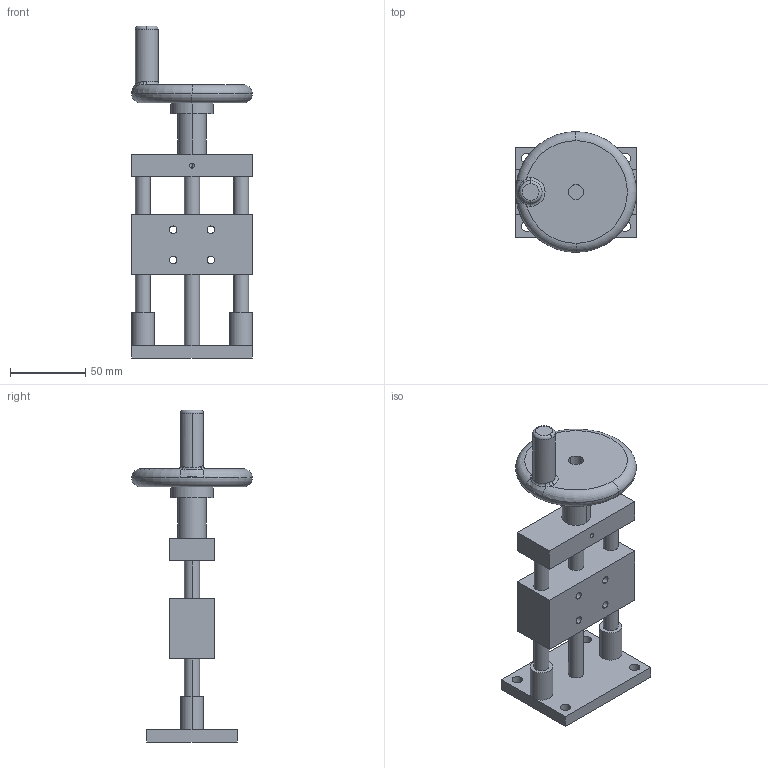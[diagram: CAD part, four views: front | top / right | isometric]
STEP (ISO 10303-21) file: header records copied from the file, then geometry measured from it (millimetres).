
FILE_DESCRIPTION (( 'STEP AP203' ), '1' );
FILE_NAME ('PT-SD501.STEP', '2022-04-16T02:56:28', ( '' ), ( '' ), 'SwSTEP 2.0', 'SolidWorks 2017', '' );
FILE_SCHEMA (( 'CONFIG_CONTROL_DESIGN' ));
Length unit declared in the file: millimetre
Products named in the file (3): 501; PT-SD501; 忒謫2
Assembly tree (2 placements, depth 2):
  PT-SD501
    501
    忒謫2
Bounding box: 80 x 80 x 220 mm (x, y, z)
Volume: 259846.5 mm3; surface area: 59337.4 mm2
Topology: 2 solids, 2 shells, 84 faces, 208 edges, 133 vertices
Faces by surface type: cylinder 43, plane 25, torus 10, bspline 4, cone 2
Entity records: 3157 total; most frequent: CARTESIAN_POINT 738, DIRECTION 484, ORIENTED_EDGE 412, EDGE_CURVE 206, AXIS2_PLACEMENT_3D 201, VERTEX_POINT 133, EDGE_LOOP 117, CIRCLE 116
